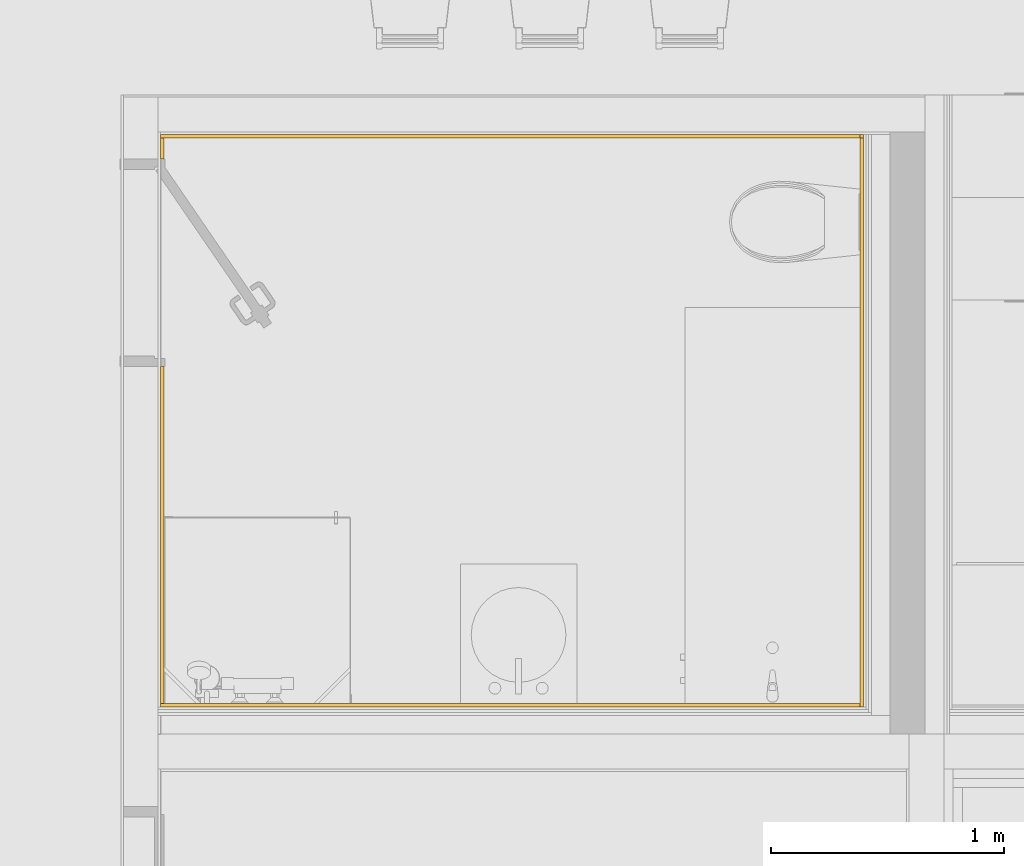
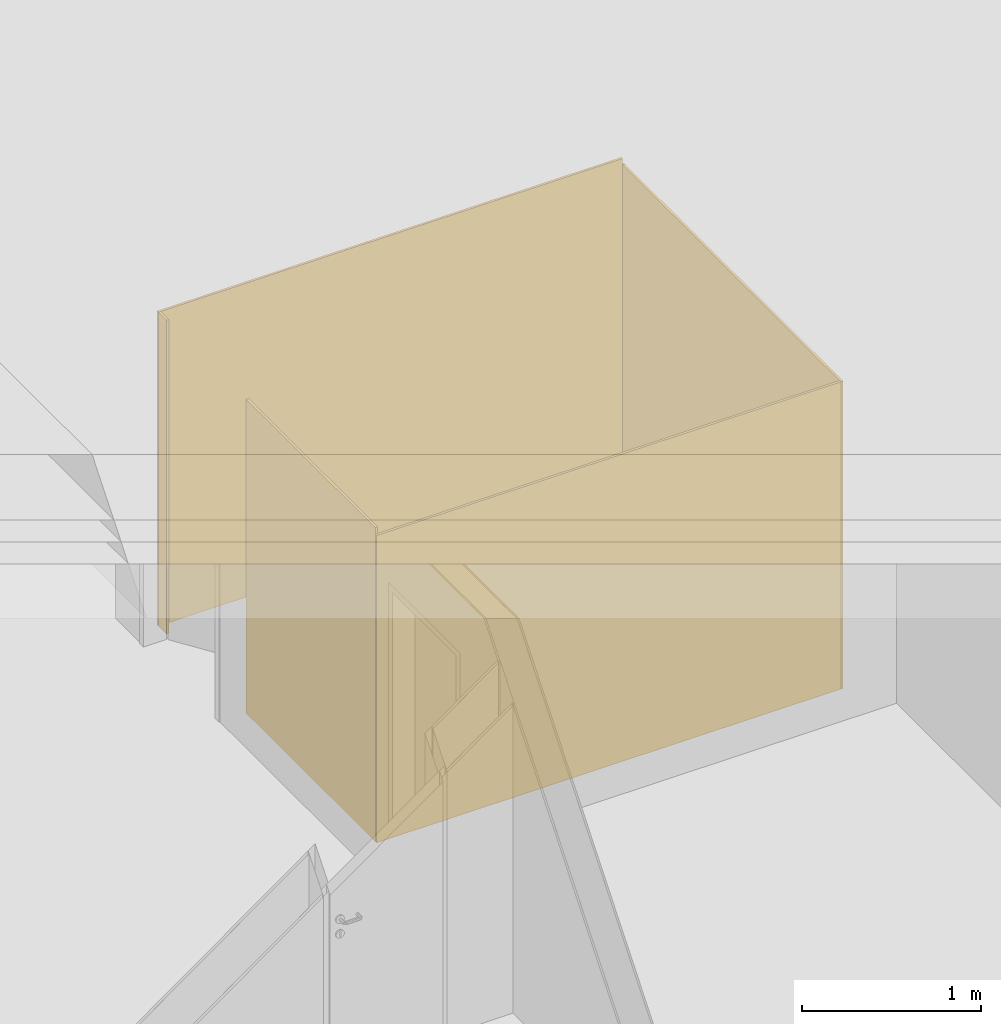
# One storey, part 25 of 36: 5 coverings.
"""IFC4 building model written with IfcOpenShell, lengths in millimetres."""

from ifc_helpers import new_model, entity, si_unit, converted_unit, derived_unit, direction, frame, origin_with_axes, place, context, subcontext, project, spatial, polygons, material, constituent, constituent_set, type_object, element, save


model = new_model("IFC4")

# Units and contexts
model_context = context("Model", 3, precision=0.01, world=origin_with_axes(), true_north=direction((0.0, 1.0)))
body_context = subcontext(model_context, "Body", "Model", "MODEL_VIEW")
ifc_project = project(units=[si_unit("LENGTHUNIT", "METRE", prefix="MILLI"), si_unit("AREAUNIT", "SQUARE_METRE"), si_unit("VOLUMEUNIT", "CUBIC_METRE"), converted_unit("PLANEANGLEUNIT", "DEGREE", entity("IfcPlaneAngleMeasure", 0.0174532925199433), si_unit("PLANEANGLEUNIT", "RADIAN"), dimensions=[0, 0, 0, 0, 0, 0, 0]), converted_unit("TIMEUNIT", "Year", entity("IfcTimeMeasure", 31557600.0), si_unit("TIMEUNIT", "SECOND"), dimensions=[0, 0, 1, 0, 0, 0, 0]), si_unit("MASSUNIT", "GRAM", prefix="KILO"), si_unit("THERMODYNAMICTEMPERATUREUNIT", "DEGREE_CELSIUS"), si_unit("LUMINOUSINTENSITYUNIT", "LUMEN"), si_unit("ENERGYUNIT", "JOULE", prefix="MEGA"), derived_unit("THERMALCONDUCTANCEUNIT", [(si_unit("POWERUNIT", "WATT"), 1), (si_unit("LENGTHUNIT", "METRE"), -1), (si_unit("THERMODYNAMICTEMPERATUREUNIT", "KELVIN"), -1)]), derived_unit("SPECIFICHEATCAPACITYUNIT", [(si_unit("ENERGYUNIT", "JOULE"), 1), (si_unit("MASSUNIT", "GRAM", prefix="KILO"), -1), (si_unit("THERMODYNAMICTEMPERATUREUNIT", "KELVIN"), -1)]), derived_unit("MASSDENSITYUNIT", [(si_unit("MASSUNIT", "GRAM", prefix="KILO"), 1), (si_unit("VOLUMEUNIT", "CUBIC_METRE"), -1)])], contexts=[model_context])

# Site, building, storey
site_placement = place(None, origin_with_axes())
site = spatial("IfcSite", under=ifc_project, at=site_placement, Name="Gelände", CompositionType="ELEMENT")
building_placement = place(site_placement, origin_with_axes())
building = spatial("IfcBuilding", under=site, at=building_placement, Name="Gebäude", CompositionType="ELEMENT")
storey_placement = place(building_placement, frame((0.0, 0.0, 8700.0), z_axis=(0.0, 0.0, 1.0), x_axis=(1.0, 0.0, 0.0)))
storey = spatial("IfcBuildingStorey", under=building, at=storey_placement, Name="Attika", CompositionType="ELEMENT", Elevation=8700.0)

# Coverings
ifc_material = material(Name="Naturstein")
ifc_constituent_1 = constituent(ifc_material, Name="Naturstein")
ifc_constituent_set_1 = constituent_set(constituents=[ifc_constituent_1], Name="Wandbekleidung Typ 01")
covering_type = type_object("IfcCoveringType", Name="Wandbekleidung Typ 01 15", PredefinedType="NOTDEFINED")
covering_1_placement = place(storey_placement, frame((1050.995818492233, 34519.06370406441, 150.0000000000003), z_axis=(0.0, 0.0, 1.0), x_axis=(0.0, -1.0, 0.0)))
element("IfcCovering", 1, at=covering_1_placement, inside=storey, type_object=covering_type, material=ifc_constituent_set_1, Name="Wand-014", PredefinedType="NOTDEFINED", context=body_context, shape_type="Tessellation", body=[
    polygons([(0.0, -14.9999999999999, 2145.000000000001), (89.9999999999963, -14.9999999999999, 2145.000000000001), (89.9999999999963, 0.0, 2145.000000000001), (0.0, 0.0, 2145.000000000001), (0.0, -14.9999999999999, 0.0), (89.9999999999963, -15.00000000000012, 0.0), (89.9999999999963, 0.0, 0.0), (0.0, 0.0, 0.0)], [[[1, 2, 3, 4]], [[5, 6, 2, 1]], [[3, 2, 6, 7]], [[4, 3, 7, 8]], [[5, 1, 4, 8]], [[8, 7, 6, 5]]], closed=True),
])
ifc_constituent_2 = constituent(ifc_material, Name="Naturstein")
ifc_constituent_set_2 = constituent_set(constituents=[ifc_constituent_2], Name="Wandbekleidung Typ 01")
covering_2_placement = place(storey_placement, frame((1050.995818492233, 34519.06370406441, 150.0000000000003), z_axis=(0.0, 0.0, 1.0), x_axis=(1.0, 0.0, 0.0)))
element("IfcCovering", 2, at=covering_2_placement, inside=storey, type_object=covering_type, material=ifc_constituent_set_2, Name="Wand-014", PredefinedType="NOTDEFINED", context=body_context, shape_type="Tessellation", body=[
    polygons([(-14.9999999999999, 15.00000000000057, 2145.000000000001), (2984.777730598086, 15.00000000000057, 2145.000000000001), (2984.777730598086, 15.00000000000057, 2100.000000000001), (2999.777730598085, 15.00000000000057, 2100.000000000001), (2999.777730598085, 15.00000000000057, 0.0), (-14.9999999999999, 15.00000000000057, 0.0), (-14.9999999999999, 0.0, 2145.000000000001), (2984.777730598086, 0.0, 2145.000000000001), (2984.777730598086, 0.0, 2100.000000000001), (2999.777730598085, 0.0, 2100.000000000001), (2999.777730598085, 0.0, 0.0), (-14.9999999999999, 0.0, 0.0)], [[[1, 2, 3, 4, 5, 6]], [[7, 8, 2, 1]], [[9, 3, 2, 8]], [[9, 10, 4, 3]], [[5, 4, 10, 11]], [[6, 5, 11, 12]], [[1, 6, 12, 7]], [[10, 9, 8, 7, 12, 11]]], closed=True),
])
ifc_constituent_3 = constituent(ifc_material, Name="Naturstein")
ifc_constituent_set_3 = constituent_set(constituents=[ifc_constituent_3], Name="Wandbekleidung Typ 01")
covering_3_placement = place(storey_placement, frame((1050.995818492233, 33539.06370406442, 150.0000000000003), z_axis=(0.0, 0.0, 1.0), x_axis=(0.0, -1.0, 0.0)))
element("IfcCovering", 3, at=covering_3_placement, inside=storey, type_object=covering_type, material=ifc_constituent_set_3, Name="Wand-014", PredefinedType="NOTDEFINED", context=body_context, shape_type="Tessellation", body=[
    polygons([(1446.466422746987, -15.00000000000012, 2145.000000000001), (1446.466422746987, -14.9999999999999, 2100.000000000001), (1446.466422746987, -14.9999999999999, 0.0), (1446.466422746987, 0.0, 0.0), (1446.466422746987, 0.0, 2100.000000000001), (1446.466422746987, 0.0, 2145.000000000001), (0.0, -14.9999999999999, 0.0), (0.0, -14.9999999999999, 2145.000000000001), (0.0, 0.0, 0.0), (0.0, 0.0, 2145.000000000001)], [[[1, 2, 3, 4, 5, 6]], [[7, 3, 2, 1, 8]], [[9, 4, 3, 7]], [[6, 5, 4, 9, 10]], [[10, 8, 1, 6]], [[10, 9, 7, 8]]], closed=True),
])
ifc_constituent_4 = constituent(ifc_material, Name="Naturstein")
ifc_constituent_set_4 = constituent_set(constituents=[ifc_constituent_4], Name="Wandbekleidung Typ 01")
covering_4_placement = place(storey_placement, frame((4035.773549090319, 32092.59728131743, 150.0000000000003), z_axis=(0.0, 0.0, 1.0), x_axis=(-1.0, 0.0, 0.0)))
element("IfcCovering", 4, at=covering_4_placement, inside=storey, type_object=covering_type, material=ifc_constituent_set_4, Name="Wand-014", PredefinedType="NOTDEFINED", context=body_context, shape_type="Tessellation", body=[
    polygons([(2999.777730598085, 15.00000000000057, 0.0), (2999.777730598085, 0.0, 0.0), (0.0, 0.0, 0.0), (0.0, 15.00000000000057, 0.0), (2999.777730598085, 15.00000000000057, 2100.000000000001), (2999.777730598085, 0.0, 2100.000000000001), (0.0, 0.0, 2100.000000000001), (0.0, 15.00000000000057, 2100.000000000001)], [[[1, 2, 3, 4]], [[2, 1, 5, 6]], [[2, 6, 7, 3]], [[8, 4, 3, 7]], [[5, 1, 4, 8]], [[6, 5, 8, 7]]], closed=True),
])
ifc_constituent_5 = constituent(ifc_material, Name="Naturstein")
ifc_constituent_set_5 = constituent_set(constituents=[ifc_constituent_5], Name="Wandbekleidung Typ 01")
covering_5_placement = place(storey_placement, frame((4035.773549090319, 32092.59728131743, 150.0000000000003), z_axis=(0.0, 0.0, 1.0), x_axis=(0.0, 1.0, 0.0)))
element("IfcCovering", 5, at=covering_5_placement, inside=storey, type_object=covering_type, material=ifc_constituent_set_5, Name="Wand-014", PredefinedType="NOTDEFINED", context=body_context, shape_type="Tessellation", body=[
    polygons([(2426.466422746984, -14.99999999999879, 2100.000000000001), (2426.466422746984, 0.0, 2100.000000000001), (-15.00000000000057, 0.0, 2100.000000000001), (-15.00000000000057, -14.99999999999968, 2100.000000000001), (2426.466422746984, -14.99999999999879, 0.0), (2426.466422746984, 0.0, 0.0), (-15.00000000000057, 0.0, 0.0), (-15.00000000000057, -14.99999999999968, 0.0)], [[[1, 2, 3, 4]], [[2, 1, 5, 6]], [[2, 6, 7, 3]], [[8, 4, 3, 7]], [[5, 1, 4, 8]], [[6, 5, 8, 7]]], closed=True),
])

save(model, "model.ifc")
